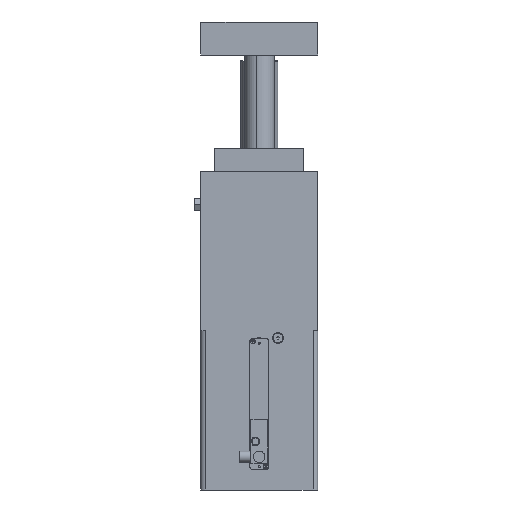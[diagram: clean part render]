
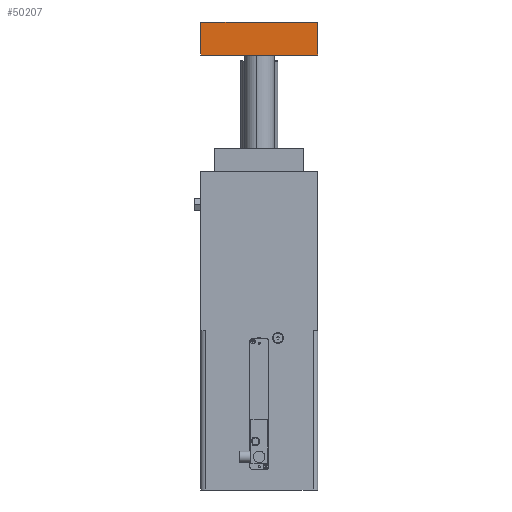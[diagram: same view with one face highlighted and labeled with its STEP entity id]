
A CAD part, left-side view. The second image highlights one B-rep face of the part: STEP entity #50207.
In plain terms, the highlighted planar face has unit normal (-1, 0, 0).
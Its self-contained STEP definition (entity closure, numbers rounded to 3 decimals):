
#48879=CARTESIAN_POINT('Vertex',(-125.,-62.5,160.)) ;
#48895=CARTESIAN_POINT('Vertex',(-125.,62.5,160.)) ;
#48898=CARTESIAN_POINT('Line Origine',(-125.,0.,160.)) ;
#49405=CARTESIAN_POINT('Vertex',(-125.,-62.5,125.)) ;
#49413=CARTESIAN_POINT('Line Origine',(-125.,-62.5,142.5)) ;
#50176=CARTESIAN_POINT('Vertex',(-125.,62.5,125.)) ;
#50179=CARTESIAN_POINT('Line Origine',(-125.,62.5,142.5)) ;
#50191=CARTESIAN_POINT('Axis2P3D Location',(-125.,62.5,125.)) ;
#50196=CARTESIAN_POINT('Line Origine',(-125.,0.,125.)) ;
#48899=DIRECTION('Vector Direction',(0.,-1.,0.)) ;
#49414=DIRECTION('Vector Direction',(0.,0.,1.)) ;
#50180=DIRECTION('Vector Direction',(0.,0.,1.)) ;
#50192=DIRECTION('Axis2P3D Direction',(-1.,0.,0.)) ;
#50193=DIRECTION('Axis2P3D XDirection',(0.,-1.,0.)) ;
#50197=DIRECTION('Vector Direction',(0.,1.,0.)) ;
#50194=AXIS2_PLACEMENT_3D('Plane Axis2P3D',#50191,#50192,#50193) ;
#50202=ORIENTED_EDGE('',*,*,#50200,.F.) ;
#50203=ORIENTED_EDGE('',*,*,#49417,.T.) ;
#50204=ORIENTED_EDGE('',*,*,#48902,.F.) ;
#50205=ORIENTED_EDGE('',*,*,#50183,.F.) ;
#48900=VECTOR('Line Direction',#48899,1.) ;
#49415=VECTOR('Line Direction',#49414,1.) ;
#50181=VECTOR('Line Direction',#50180,1.) ;
#50198=VECTOR('Line Direction',#50197,1.) ;
#50207=ADVANCED_FACE('MZVD_63_100_120_AUFNAHMEPLATTE',(#50206),#50195,.T.) ;
#48902=EDGE_CURVE('',#48896,#48880,#48901,.T.) ;
#49417=EDGE_CURVE('',#49406,#48880,#49416,.T.) ;
#50183=EDGE_CURVE('',#50177,#48896,#50182,.T.) ;
#50200=EDGE_CURVE('',#49406,#50177,#50199,.T.) ;
#50201=EDGE_LOOP('',(#50202,#50203,#50204,#50205)) ;
#50206=FACE_OUTER_BOUND('',#50201,.T.) ;
#48901=LINE('Line',#48898,#48900) ;
#49416=LINE('Line',#49413,#49415) ;
#50182=LINE('Line',#50179,#50181) ;
#50199=LINE('Line',#50196,#50198) ;
#50195=PLANE('',#50194) ;
#48880=VERTEX_POINT('',#48879) ;
#48896=VERTEX_POINT('',#48895) ;
#49406=VERTEX_POINT('',#49405) ;
#50177=VERTEX_POINT('',#50176) ;
